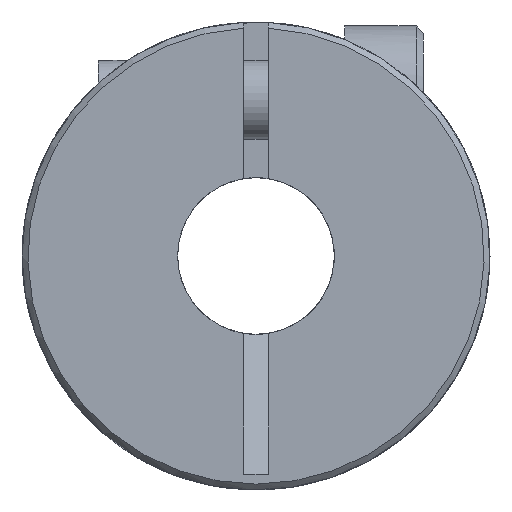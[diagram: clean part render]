
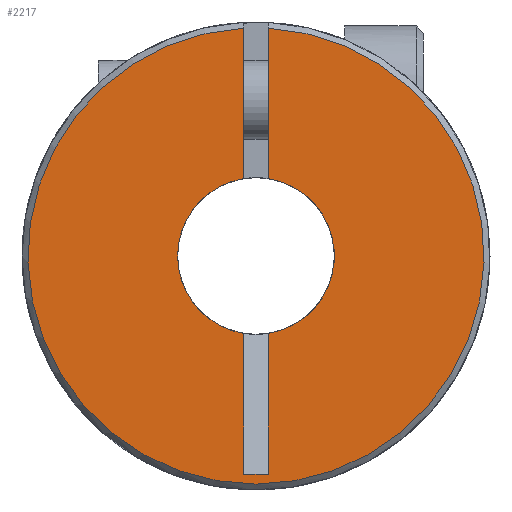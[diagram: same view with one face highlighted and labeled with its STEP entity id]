
A CAD part, front view. The second image highlights one B-rep face of the part: STEP entity #2217.
In plain terms, the highlighted planar face has unit normal (0, -1, 0).
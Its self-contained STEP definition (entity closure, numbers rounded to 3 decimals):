
#1=DIRECTION('',(0.,0.,-1.));
#2=VECTOR('',#1,3.053);
#3=CARTESIAN_POINT('',(-0.25,-7.1,4.623));
#4=LINE('',#3,#2);
#5=CARTESIAN_POINT('',(0.,-7.1,0.));
#6=DIRECTION('',(0.,1.,0.));
#7=DIRECTION('',(-1.,0.,0.));
#8=AXIS2_PLACEMENT_3D('',#5,#6,#7);
#10=CARTESIAN_POINT('',(0.,-7.1,0.));
#11=DIRECTION('',(0.,1.,0.));
#12=DIRECTION('',(-0.157,0.,-0.988));
#13=AXIS2_PLACEMENT_3D('',#10,#11,#12);
#15=DIRECTION('',(0.,0.,-1.));
#16=VECTOR('',#15,2.862);
#17=CARTESIAN_POINT('',(-0.25,-7.1,-1.57));
#18=LINE('',#17,#16);
#19=DIRECTION('',(1.,0.,0.));
#20=VECTOR('',#19,0.5);
#21=CARTESIAN_POINT('',(-0.25,-7.1,-4.432));
#22=LINE('',#21,#20);
#23=DIRECTION('',(0.,0.,-1.));
#24=VECTOR('',#23,2.862);
#25=CARTESIAN_POINT('',(0.25,-7.1,-1.57));
#26=LINE('',#25,#24);
#27=DIRECTION('',(0.,0.,-1.));
#28=VECTOR('',#27,3.053);
#29=CARTESIAN_POINT('',(0.25,-7.1,4.623));
#30=LINE('',#29,#28);
#54=CARTESIAN_POINT('',(0.,-7.1,0.));
#55=DIRECTION('',(0.,1.,0.));
#56=DIRECTION('',(0.157,0.,0.988));
#57=AXIS2_PLACEMENT_3D('',#54,#55,#56);
#1786=CARTESIAN_POINT('',(0.,-7.1,0.));
#1787=DIRECTION('',(0.,-1.,0.));
#1788=DIRECTION('',(-0.054,0.,0.999));
#1789=AXIS2_PLACEMENT_3D('',#1786,#1787,#1788);
#1948=CARTESIAN_POINT('',(-1.59,-7.1,0.));
#1949=VERTEX_POINT('',#1948);
#2023=CARTESIAN_POINT('',(-0.25,-7.1,-4.432));
#2025=VERTEX_POINT('',#2023);
#2027=CARTESIAN_POINT('',(0.25,-7.1,-4.432));
#2029=VERTEX_POINT('',#2027);
#2080=CARTESIAN_POINT('',(-0.25,-7.1,4.623));
#2081=CARTESIAN_POINT('',(-0.25,-7.1,1.57));
#2082=VERTEX_POINT('',#2080);
#2083=VERTEX_POINT('',#2081);
#2084=CARTESIAN_POINT('',(-0.25,-7.1,-1.57));
#2085=VERTEX_POINT('',#2084);
#2086=CARTESIAN_POINT('',(0.25,-7.1,4.623));
#2087=CARTESIAN_POINT('',(0.25,-7.1,1.57));
#2088=VERTEX_POINT('',#2086);
#2089=VERTEX_POINT('',#2087);
#2090=CARTESIAN_POINT('',(0.25,-7.1,-1.57));
#2091=VERTEX_POINT('',#2090);
#2192=CARTESIAN_POINT('',(0.,-7.1,0.));
#2193=DIRECTION('',(0.,1.,0.));
#2194=DIRECTION('',(1.,0.,0.));
#2195=AXIS2_PLACEMENT_3D('',#2192,#2193,#2194);
#2196=PLANE('',#2195);
#2198=ORIENTED_EDGE('',*,*,#2197,.T.);
#2200=ORIENTED_EDGE('',*,*,#2199,.F.);
#2202=ORIENTED_EDGE('',*,*,#2201,.F.);
#2204=ORIENTED_EDGE('',*,*,#2203,.T.);
#2206=ORIENTED_EDGE('',*,*,#2205,.T.);
#2208=ORIENTED_EDGE('',*,*,#2207,.F.);
#2210=ORIENTED_EDGE('',*,*,#2209,.F.);
#2212=ORIENTED_EDGE('',*,*,#2211,.F.);
#2214=ORIENTED_EDGE('',*,*,#2213,.F.);
#2215=EDGE_LOOP('',(#2198,#2200,#2202,#2204,#2206,#2208,#2210,#2212,#2214));
#2216=FACE_OUTER_BOUND('',#2215,.F.);
#2217=ADVANCED_FACE('',(#2216),#2196,.F.);
#9=CIRCLE('',#8,1.59);
#14=CIRCLE('',#13,1.59);
#58=CIRCLE('',#57,1.59);
#1790=CIRCLE('',#1789,4.63);
#2197=EDGE_CURVE('',#2082,#2083,#4,.T.);
#2199=EDGE_CURVE('',#1949,#2083,#9,.T.);
#2201=EDGE_CURVE('',#2085,#1949,#14,.T.);
#2203=EDGE_CURVE('',#2085,#2025,#18,.T.);
#2205=EDGE_CURVE('',#2025,#2029,#22,.T.);
#2207=EDGE_CURVE('',#2091,#2029,#26,.T.);
#2209=EDGE_CURVE('',#2089,#2091,#58,.T.);
#2211=EDGE_CURVE('',#2088,#2089,#30,.T.);
#2213=EDGE_CURVE('',#2082,#2088,#1790,.T.);
